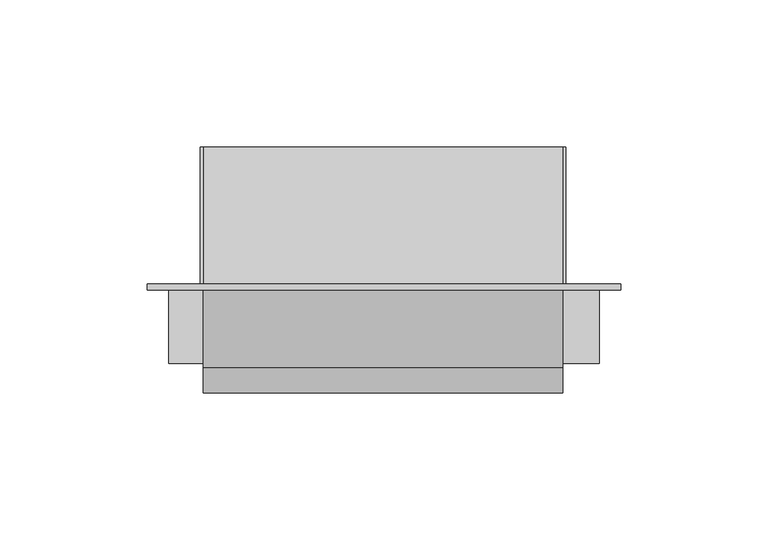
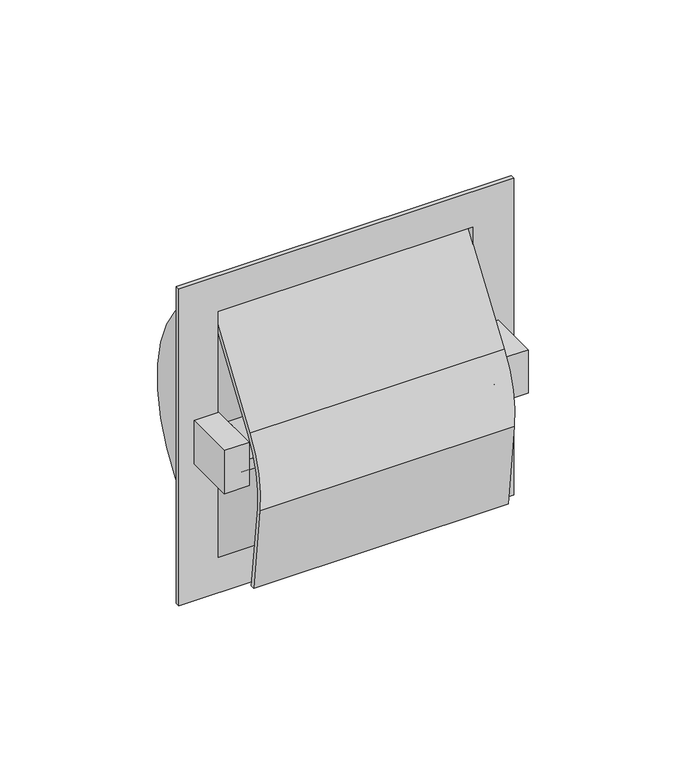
"""IFC4 building model written with IfcOpenShell, lengths in millimetres: proxy geometry, Toilet Roll Dispenser_Metlam_Single_Recessed_Hooded : 161w x 84d x 161h (ML261-S)."""

from ifc_helpers import new_model, si_unit, point, frame, frame_2d, origin, place, context, project, spatial, polyline, circle_curve, trimmed, segment, composite_curve, outline, extrude, source, transform, mapped, element, save
from ifc_brep_helpers import plane_surface, cylinder_surface, revolved_surface, advanced_brep


def specialty_equipment_caec7ef2(model_context):
    return source(origin(), model_context, "Body", "SolidModel", [
        advanced_brep(
        [(-62.4073232, -47.0, 648.948314), (-62.4073232, -47.0, 521.051686), (-61.4219695, -49.0, 522.5389172), (-61.4219695, -49.0, 647.4610828), (-61.4219695, -49.0, 596.0), (-61.4219695, -49.0, 574.0), (-61.4219695, -47.0, 648.948314), (-61.4219695, -47.0, 521.051686), (80.5, -49.0, 665.5), (-80.5, -49.0, 665.5), (-80.5, -49.0, 504.5), (80.5, -49.0, 504.5), (60.8073232, -49.0, 522.5389172), (-73.1248355, -49.0, 574.0), (-73.1248355, -49.0, 596.0), (60.8073232, -49.0, 647.4610828), (60.8073232, -49.0, 596.0), (73.1248355, -49.0, 596.0), (73.1248355, -49.0, 574.0), (60.8073232, -49.0, 574.0), (60.8073232, -47.0, 648.948314), (60.8073232, -47.0, 521.051686), (60.8073232, -74.0, 574.0), (60.8073232, -74.0, 596.0), (61.7926768, -47.0, 521.051686), (61.7926768, -47.0, 648.948314), (80.5, -47.0, 665.5), (80.5, -47.0, 504.5), (-80.5, -47.0, 504.5), (-80.5, -47.0, 665.5), (73.1248355, -74.0, 596.0), (73.1248355, -74.0, 574.0), (-73.1248355, -74.0, 596.0), (-73.1248355, -74.0, 574.0), (-61.1146464, -74.0, 596.0), (-61.1146464, -74.0, 574.0), (-61.1146464, -49.0, 574.0), (-61.1146464, -49.0, 596.0)],
        [
            (0, 1, circle_curve(frame((-62.4073232, -67.0041156, 585.0), z_axis=(-1.0, 0.0, 0.0), x_axis=(0.0, 0.0, 1.0)), 67.0041156)),
            (1, 0),
            (2, 3, circle_curve(frame((-61.4219695, -67.0041156, 585.0), z_axis=(1.0, 0.0, 0.0), x_axis=(0.0, 0.0, 1.0)), 65.0041156)),
            (3, 4),
            (4, 5),
            (5, 2),
            (0, 6),
            (6, 7, circle_curve(frame((-61.4219695, -67.0041156, 585.0), z_axis=(-1.0, 0.0, 0.0), x_axis=(0.0, 0.0, 1.0)), 67.0041156)),
            (7, 1),
            (8, 9),
            (9, 10),
            (10, 11),
            (11, 8),
            (12, 2),
            (5, 13),
            (13, 14),
            (14, 4),
            (3, 15),
            (15, 16),
            (16, 17),
            (17, 18),
            (18, 19),
            (19, 12),
            (6, 20),
            (20, 21, circle_curve(frame((60.8073232, -67.0041156, 585.0), z_axis=(-1.0, 0.0, 0.0), x_axis=(0.0, 0.0, 1.0)), 67.0041156)),
            (21, 7),
            (12, 15, circle_curve(frame((60.8073232, -67.0041156, 585.0), z_axis=(1.0, 0.0, 0.0), x_axis=(0.0, 0.0, 1.0)), 65.0041156)),
            (19, 22),
            (22, 23),
            (23, 16),
            (24, 25, circle_curve(frame((61.7926768, -67.0041156, 585.0), z_axis=(1.0, 0.0, 0.0), x_axis=(0.0, 0.0, 1.0)), 67.0041156)),
            (25, 24),
            (24, 21),
            (20, 25),
            (26, 27),
            (27, 28),
            (28, 29),
            (29, 26),
            (8, 26),
            (29, 9),
            (28, 10),
            (27, 11),
            (30, 31),
            (31, 18),
            (17, 30),
            (30, 23),
            (22, 31),
            (32, 14),
            (13, 33),
            (33, 32),
            (34, 35),
            (35, 36),
            (36, 37),
            (37, 34),
            (33, 35),
            (34, 32),
            (5, 36),
            (4, 37),
        ],
        [
            plane_surface(frame((-62.4073232, -47.0, 521.051686), z_axis=(-1.0, 0.0, 0.0), x_axis=(0.0, 0.0, 1.0))),
            plane_surface(frame((-61.4219695, -47.0, 521.051686), z_axis=(1.0, 0.0, 0.0), x_axis=(0.0, 0.0, -1.0))),
            cylinder_surface(frame((-62.4073232, -67.0041156, 585.0), z_axis=(1.0, 0.0, 0.0), x_axis=(0.0, 0.0, 1.0)), 67.0041156),
            plane_surface(frame((60.8073232, -49.0, 522.5389172), z_axis=(0.0, -1.0, 0.0), x_axis=(-1.0, 0.0, 0.0))),
            cylinder_surface(frame((-61.4219695, -67.0041156, 585.0), z_axis=(1.0, 0.0, 0.0), x_axis=(0.0, 0.0, 1.0)), 67.0041156),
            revolved_surface(polyline([(-61.4219695, -67.0041156, 650.0041156), (60.8073232, -67.0041156, 650.0041156)]), (-61.4219695, -67.0041156, 585.0), (-1.0, 0.0, 0.0)),
            plane_surface(frame((60.8073232, -47.0, 521.051686), z_axis=(-1.0, 0.0, 0.0), x_axis=(0.0, 0.0, 1.0))),
            plane_surface(frame((61.7926768, -47.0, 521.051686), z_axis=(1.0, 0.0, 0.0), x_axis=(0.0, 0.0, -1.0))),
            cylinder_surface(frame((60.8073232, -67.0041156, 585.0), z_axis=(1.0, 0.0, 0.0), x_axis=(0.0, 0.0, 1.0)), 67.0041156),
            plane_surface(frame((-80.5, -47.0, 665.5), z_axis=(0.0, 1.0, 0.0), x_axis=(1.0, 0.0, 0.0))),
            plane_surface(frame((80.5, -49.0, 665.5), z_axis=(0.0, 0.0, 1.0), x_axis=(0.0, 1.0, 0.0))),
            plane_surface(frame((-80.5, -49.0, 665.5), z_axis=(-1.0, 0.0, 0.0), x_axis=(0.0, 1.0, 0.0))),
            plane_surface(frame((-80.5, -49.0, 504.5), z_axis=(0.0, 0.0, -1.0), x_axis=(0.0, 1.0, 0.0))),
            plane_surface(frame((80.5, -49.0, 504.5), z_axis=(1.0, 0.0, 0.0), x_axis=(0.0, 1.0, 0.0))),
            plane_surface(frame((73.1248355, -74.0, 596.0), z_axis=(1.0, 0.0, 0.0), x_axis=(0.0, 0.0, -1.0))),
            plane_surface(frame((73.1248355, -74.0, 596.0), z_axis=(0.0, -1.0, 0.0), x_axis=(-1.0, 0.0, 0.0))),
            plane_surface(frame((73.1248355, -74.0, 574.0), z_axis=(0.0, 0.0, -1.0), x_axis=(-1.0, 0.0, 0.0))),
            plane_surface(frame((73.1248355, -49.0, 596.0), z_axis=(0.0, 0.0, 1.0), x_axis=(-1.0, 0.0, 0.0))),
            plane_surface(frame((-73.1248355, -49.0, 596.0), z_axis=(-1.0, 0.0, 0.0), x_axis=(0.0, 1.0, 0.0))),
            plane_surface(frame((-61.1146464, -49.0, 596.0), z_axis=(1.0, 0.0, 0.0), x_axis=(0.0, -1.0, 0.0))),
            plane_surface(frame((-73.1248355, -74.0, 574.0), z_axis=(0.0, -1.0, 0.0), x_axis=(1.0, 0.0, 0.0))),
            plane_surface(frame((-73.1248355, -49.0, 574.0), z_axis=(0.0, 0.0, -1.0), x_axis=(1.0, 0.0, 0.0))),
            plane_surface(frame((-73.1248355, -49.0, 596.0), z_axis=(0.0, 1.0, 0.0), x_axis=(1.0, 0.0, 0.0))),
            plane_surface(frame((-73.1248355, -74.0, 596.0), z_axis=(0.0, 0.0, 1.0), x_axis=(1.0, 0.0, 0.0))),
        ],
        [
            (0, [[1, 2]]),
            (1, [[3, 4, 5, 6]]),
            (2, [[-1, 7, 8, 9]]),
            (3, [[10, 11, 12, 13], [14, -6, 15, 16, 17, -4, 18, 19, 20, 21, 22, 23]]),
            (4, [[-8, 24, 25, 26]]),
            (5, [[-14, 27, -18, -3]]),
            (6, [[-27, -23, 28, 29, 30, -19]]),
            (7, [[31, 32]]),
            (8, [[-31, 33, -25, 34]]),
            (9, [[35, 36, 37, 38], [-2, -9, -26, -33, -32, -34, -24, -7]]),
            (10, [[-10, 39, -38, 40]]),
            (11, [[-11, -40, -37, 41]]),
            (12, [[-12, -41, -36, 42]]),
            (13, [[-13, -42, -35, -39]]),
            (14, [[43, 44, -21, 45]]),
            (15, [[-43, 46, -29, 47]]),
            (16, [[-44, -47, -28, -22]]),
            (17, [[-45, -20, -30, -46]]),
            (18, [[48, -16, 49, 50]]),
            (19, [[51, 52, 53, 54]]),
            (20, [[-50, 55, -51, 56]]),
            (21, [[-49, -15, 57, -52, -55]]),
            (22, [[-53, -57, -5, 58]]),
            (23, [[-48, -56, -54, -58, -17]]),
        ],
    ),
        extrude(outline(composite_curve([segment(trimmed(circle_curve(frame_2d((-34.0, 573.2090239)), 48.0), [point((-73.5531086, 600.4037219))], [point((-81.6422153, 567.3592954))], True, "CARTESIAN"), True, "CONTINUOUS"), segment(polyline([(-81.6422153, 567.3592954), (-76.3797555, 524.5), (-78.3947752, 524.5), (-83.6273076, 567.1155567)]), True, "CONTINUOUS"), segment(trimmed(circle_curve(frame_2d((-34.0, 573.2090239)), 50.0), [point((-83.6273076, 567.1155567))], [point((-75.2011548, 601.5368343))], False, "CARTESIAN"), True, "CONTINUOUS"), segment(polyline([(-75.2011548, 601.5368343), (-45.0205739, 645.4327363), (-43.3725277, 644.2996238), (-73.5531086, 600.4037219)]), True, "CONTINUOUS")], self_intersect=False)), frame((-61.4219695, 0.0, 0.0), z_axis=(1.0, 0.0, 0.0), x_axis=(0.0, 1.0, 0.0)), (0.0, 0.0, 1.0), 122.2292927),
        advanced_brep(
        [(-61.1146464, -49.3201367, 585.0), (-61.1146464, -71.3201367, 585.0), (-61.1146464, -60.3201367, 585.0), (0.0, -49.3201367, 585.0), (0.0, -71.3201367, 585.0), (0.0, -50.8201367, 585.0), (0.0, -69.8201367, 585.0), (61.1146464, -50.8201367, 585.0), (61.1146464, -69.8201367, 585.0), (61.1146464, -60.3201367, 585.0)],
        [
            (0, 1, circle_curve(frame((-61.1146464, -60.3201367, 585.0), z_axis=(-1.0, 0.0, 0.0), x_axis=(0.0, -1.0, 0.0)), 11.0)),
            (1, 2),
            (2, 0),
            (1, 0, circle_curve(frame((-61.1146464, -60.3201367, 585.0), z_axis=(-1.0, 0.0, 0.0), x_axis=(0.0, -1.0, 0.0)), 11.0)),
            (3, 4, circle_curve(frame((0.0, -60.3201367, 585.0), z_axis=(-1.0, 0.0, 0.0), x_axis=(0.0, -1.0, 0.0)), 11.0)),
            (4, 1),
            (0, 3),
            (4, 3, circle_curve(frame((0.0, -60.3201367, 585.0), z_axis=(-1.0, 0.0, 0.0), x_axis=(0.0, -1.0, 0.0)), 11.0)),
            (5, 6, circle_curve(frame((0.0, -60.3201367, 585.0), z_axis=(-1.0, 0.0, 0.0), x_axis=(0.0, -1.0, 0.0)), 9.5)),
            (6, 4),
            (3, 5),
            (6, 5, circle_curve(frame((0.0, -60.3201367, 585.0), z_axis=(-1.0, 0.0, 0.0), x_axis=(0.0, -1.0, 0.0)), 9.5)),
            (7, 8, circle_curve(frame((61.1146464, -60.3201367, 585.0), z_axis=(-1.0, 0.0, 0.0), x_axis=(0.0, -1.0, 0.0)), 9.5)),
            (8, 6),
            (5, 7),
            (8, 7, circle_curve(frame((61.1146464, -60.3201367, 585.0), z_axis=(-1.0, 0.0, 0.0), x_axis=(0.0, -1.0, 0.0)), 9.5)),
            (9, 8),
            (7, 9),
        ],
        [
            plane_surface(frame((-61.1146464, -60.3201367, 585.0), z_axis=(-1.0, 0.0, 0.0), x_axis=(0.0, -1.0, 0.0))),
            cylinder_surface(frame((-17.5, -60.3201367, 585.0), z_axis=(1.0, 0.0, 0.0), x_axis=(0.0, -1.0, 0.0)), 11.0),
            plane_surface(frame((0.0, -60.3201367, 585.0), z_axis=(1.0, 0.0, 0.0), x_axis=(0.0, -1.0, 0.0))),
            cylinder_surface(frame((-17.5, -60.3201367, 585.0), z_axis=(1.0, 0.0, 0.0), x_axis=(0.0, -1.0, 0.0)), 9.5),
            plane_surface(frame((61.1146464, -60.3201367, 585.0), z_axis=(1.0, 0.0, 0.0), x_axis=(0.0, -1.0, 0.0))),
        ],
        [
            (0, [[1, 2, 3]]),
            (0, [[4, -3, -2]]),
            (1, [[5, 6, -1, 7]]),
            (1, [[8, -7, -4, -6]]),
            (2, [[9, 10, -5, 11]]),
            (2, [[12, -11, -8, -10]]),
            (3, [[13, 14, -9, 15]]),
            (3, [[16, -15, -12, -14]]),
            (4, [[17, -13, 18]]),
            (4, [[-18, -16, -17]]),
        ],
    ),
    ])


if __name__ == "__main__":
    model = new_model("IFC4")
    model_context = context("Model", 3, world=origin())
    ifc_project = project(units=[si_unit("LENGTHUNIT", "METRE", prefix="MILLI")], contexts=[model_context])
    site = spatial("IfcSite", under=ifc_project)
    building = spatial("IfcBuilding", under=site)
    placement = place(None, origin())
    specialty_equipment_shape = specialty_equipment_caec7ef2(model_context)
    element("IfcBuildingElementProxy", 1, Name="Toilet Roll Dispenser_Metlam_Single_Recessed_Hooded : 161w x 84d x 161h (ML261-S)", ObjectType="Toilet Roll Dispenser_Metlam_Single_Recessed_Hooded : 161w x 84d x 161h (ML261-S)", at=placement, inside=building, context=model_context, shape_type="MappedRepresentation", body=[
        mapped(specialty_equipment_shape, transform((0.0, 0.0, 0.0), x_axis=(1.0, 0.0, 0.0), y_axis=(0.0, 1.0, 0.0), z_axis=(0.0, 0.0, 1.0))),
    ])
    save(model, "model.ifc")
